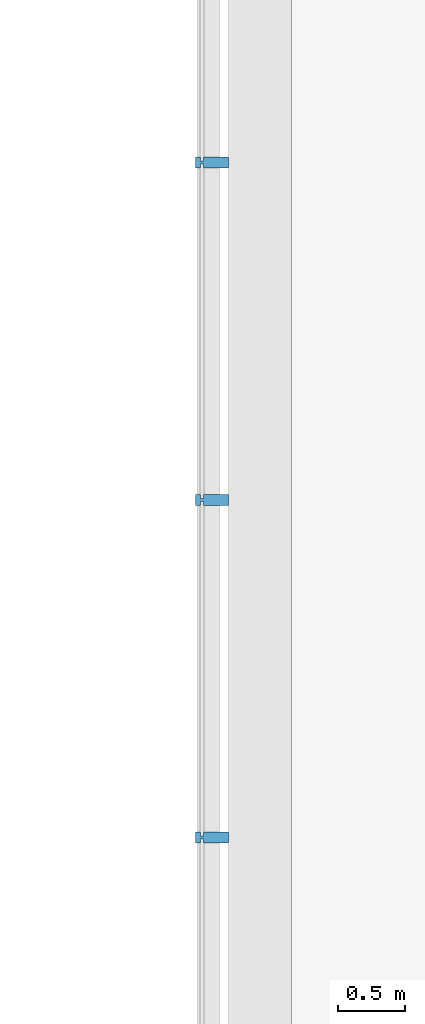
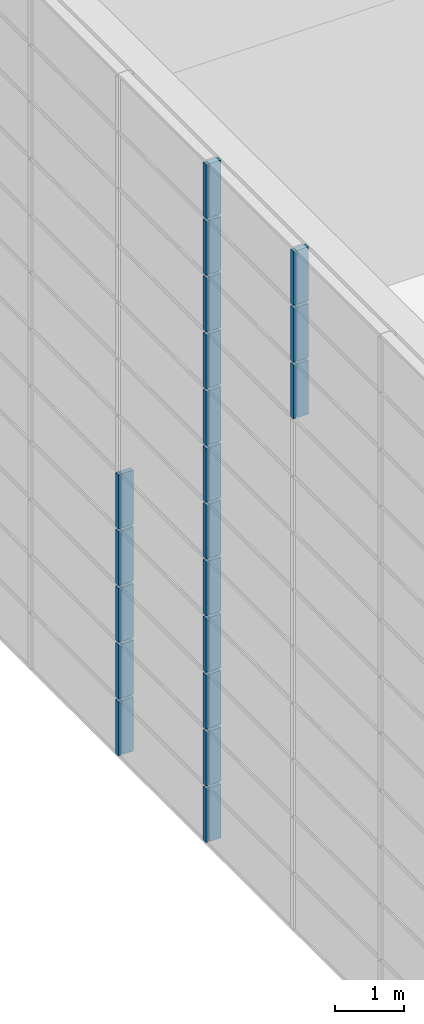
# One storey, part 83 of 105: 20 building element parts, 4 elements without a shape of their own.
"""IFC4 building model written with IfcOpenShell, lengths in millimetres."""

from ifc_helpers import new_model, entity, si_unit, converted_unit, derived_unit, direction, frame, origin_with_axes, place, context, subcontext, project, spatial, triangles, material, element, aggregate, save


model = new_model("IFC4")

# Units and contexts
model_context = context("Model", 3, precision=1e-05, world=origin_with_axes(), true_north=direction((0.0, 1.0)))
body_context = subcontext(model_context, "Body", "Model", "MODEL_VIEW")
ifc_project = project(units=[si_unit("LENGTHUNIT", "METRE", prefix="MILLI"), si_unit("AREAUNIT", "SQUARE_METRE"), si_unit("VOLUMEUNIT", "CUBIC_METRE"), converted_unit("PLANEANGLEUNIT", "DEGREE", entity("IfcLengthMeasure", 0.017453), si_unit("PLANEANGLEUNIT", "RADIAN"), dimensions=[0, 0, 0, 0, 0, 0, 0]), si_unit("SOLIDANGLEUNIT", "STERADIAN"), si_unit("MASSUNIT", "GRAM"), si_unit("TIMEUNIT", "SECOND"), si_unit("THERMODYNAMICTEMPERATUREUNIT", "DEGREE_CELSIUS"), si_unit("LUMINOUSINTENSITYUNIT", "LUMEN"), si_unit("POWERUNIT", "WATT"), derived_unit("THERMALTRANSMITTANCEUNIT", [(si_unit("POWERUNIT", "WATT"), 1), (si_unit("THERMODYNAMICTEMPERATUREUNIT", "KELVIN"), -1), (si_unit("AREAUNIT", "SQUARE_METRE"), -1)])], contexts=[model_context])

# Site, building, storey
site_placement = place(None, origin_with_axes())
site = spatial("IfcSite", under=ifc_project, at=site_placement, Name="Default Site", CompositionType="ELEMENT")
building_placement = place(site_placement, origin_with_axes())
building = spatial("IfcBuilding", under=site, at=building_placement, Name="Default Building", CompositionType="ELEMENT")
storey_placement = place(building_placement, origin_with_axes())
storey = spatial("IfcBuildingStorey", under=building, at=storey_placement, Name="OG - Story", CompositionType="ELEMENT", Elevation=0.0)

# Curtain wall, building element parts
curtain_wall_1_placement = place(storey_placement, origin_with_axes())
curtain_wall_1 = element("IfcCurtainWall", 1, at=curtain_wall_1_placement, inside=storey, Name="Fassade-003", PredefinedType="NOTDEFINED")
ifc_material = material(Name="Blech")
building_element_part_1_placement = place(curtain_wall_1_placement, frame((31551.391327, -51326.104944, 0.0), z_axis=(0.0, 0.0, 1.0), x_axis=(1.0, 0.0, 0.0)))
building_element_part_1 = element("IfcBuildingElementPart", 2, at=building_element_part_1_placement, material=ifc_material, Name="Blech", PredefinedType="NOTDEFINED", context=body_context, shape_type="Tessellation", body=[
    triangles([(200.0, 39117.895, 975.0), (10.0, 39117.895, 975.0), (200.0, 39197.895, 975.0), (10.0, 39147.895, 975.0), (10.0, 39167.895, 975.0), (-9.999, 39147.895, 975.0), (-9.999, 39167.895, 975.0), (-9.999, 39197.895, 975.0), (-9.999, 39117.895, 975.0), (-49.999, 39117.895, 975.0), (-49.999, 39197.895, 975.0), (10.0, 39197.895, 975.0), (10.0, 39167.895, 25.0), (-9.999, 39167.895, 25.0), (-9.999, 39197.895, 25.0), (-49.999, 39197.895, 25.0), (-49.999, 39117.895, 25.0), (-9.999, 39117.895, 25.0), (-9.999, 39147.895, 25.0), (10.0, 39147.895, 25.0), (10.0, 39117.895, 25.0), (200.0, 39117.895, 25.0), (200.0, 39197.895, 25.0), (10.0, 39197.895, 25.0)], [[1, 2, 3], [3, 2, 4], [3, 4, 5], [5, 4, 6], [5, 6, 7], [8, 9, 10], [8, 10, 11], [3, 5, 12], [5, 13, 14], [5, 14, 7], [7, 14, 15], [7, 15, 8], [15, 16, 11], [15, 11, 8], [10, 11, 16], [10, 16, 17], [18, 9, 10], [18, 10, 17], [9, 18, 19], [9, 19, 6], [4, 6, 19], [4, 19, 20], [2, 4, 20], [2, 20, 21], [2, 21, 22], [2, 22, 1], [3, 1, 22], [3, 22, 23], [12, 3, 23], [12, 23, 24], [12, 24, 13], [12, 13, 5], [23, 24, 22], [22, 24, 13], [22, 13, 20], [20, 13, 14], [20, 14, 19], [18, 15, 16], [18, 16, 17], [22, 20, 21]], closed=False),
])
building_element_part_2_placement = place(curtain_wall_1_placement, frame((31551.391327, -51326.104944, 0.0), z_axis=(0.0, 0.0, 1.0), x_axis=(1.0, 0.0, 0.0)))
building_element_part_2 = element("IfcBuildingElementPart", 3, at=building_element_part_2_placement, material=ifc_material, Name="Blech", PredefinedType="NOTDEFINED", context=body_context, shape_type="Tessellation", body=[
    triangles([(200.0, 41644.211, 975.0), (10.0, 41644.211, 975.0), (200.0, 41724.211, 975.0), (10.0, 41674.211, 975.0), (10.0, 41694.211, 975.0), (-9.999, 41674.211, 975.0), (-9.999, 41694.211, 975.0), (-9.999, 41724.211, 975.0), (-9.999, 41644.211, 975.0), (-49.999, 41644.211, 975.0), (-49.999, 41724.211, 975.0), (10.0, 41724.211, 975.0), (10.0, 41694.211, 25.0), (-9.999, 41694.211, 25.0), (-9.999, 41724.211, 25.0), (-49.999, 41724.211, 25.0), (-49.999, 41644.211, 25.0), (-9.999, 41644.211, 25.0), (-9.999, 41674.211, 25.0), (10.0, 41674.211, 25.0), (10.0, 41644.211, 25.0), (200.0, 41644.211, 25.0), (200.0, 41724.211, 25.0), (10.0, 41724.211, 25.0)], [[1, 2, 3], [3, 2, 4], [3, 4, 5], [5, 4, 6], [5, 6, 7], [8, 9, 10], [8, 10, 11], [3, 5, 12], [5, 13, 14], [5, 14, 7], [7, 14, 15], [7, 15, 8], [15, 16, 11], [15, 11, 8], [10, 11, 16], [10, 16, 17], [18, 9, 10], [18, 10, 17], [9, 18, 19], [9, 19, 6], [4, 6, 19], [4, 19, 20], [2, 4, 20], [2, 20, 21], [2, 21, 22], [2, 22, 1], [3, 1, 22], [3, 22, 23], [12, 3, 23], [12, 23, 24], [12, 24, 13], [12, 13, 5], [23, 24, 22], [22, 24, 13], [22, 13, 20], [20, 13, 14], [20, 14, 19], [18, 15, 16], [18, 16, 17], [22, 20, 21]], closed=False),
])
building_element_part_3_placement = place(curtain_wall_1_placement, frame((31551.391327, -51326.104944, 0.0), z_axis=(0.0, 0.0, 1.0), x_axis=(1.0, 0.0, 0.0)))
building_element_part_3 = element("IfcBuildingElementPart", 4, at=building_element_part_3_placement, material=ifc_material, Name="Blech", PredefinedType="NOTDEFINED", context=body_context, shape_type="Tessellation", body=[
    triangles([(200.0, 39117.895, 1975.0), (10.0, 39117.895, 1975.0), (200.0, 39197.895, 1975.0), (10.0, 39147.895, 1975.0), (10.0, 39167.895, 1975.0), (-9.999, 39147.895, 1975.0), (-9.999, 39167.895, 1975.0), (-9.999, 39197.895, 1975.0), (-9.999, 39117.895, 1975.0), (-49.999, 39117.895, 1975.0), (-49.999, 39197.895, 1975.0), (10.0, 39197.895, 1975.0), (10.0, 39167.895, 1025.0), (-9.999, 39167.895, 1025.0), (-9.999, 39197.895, 1025.0), (-49.999, 39197.895, 1025.0), (-49.999, 39117.895, 1025.0), (-9.999, 39117.895, 1025.0), (-9.999, 39147.895, 1025.0), (10.0, 39147.895, 1025.0), (10.0, 39117.895, 1025.0), (200.0, 39117.895, 1025.0), (200.0, 39197.895, 1025.0), (10.0, 39197.895, 1025.0)], [[1, 2, 3], [3, 2, 4], [3, 4, 5], [5, 4, 6], [5, 6, 7], [8, 9, 10], [8, 10, 11], [3, 5, 12], [5, 13, 14], [5, 14, 7], [7, 14, 15], [7, 15, 8], [15, 16, 11], [15, 11, 8], [10, 11, 16], [10, 16, 17], [18, 9, 10], [18, 10, 17], [9, 18, 19], [9, 19, 6], [4, 6, 19], [4, 19, 20], [2, 4, 20], [2, 20, 21], [2, 21, 22], [2, 22, 1], [3, 1, 22], [3, 22, 23], [12, 3, 23], [12, 23, 24], [12, 24, 13], [12, 13, 5], [23, 24, 22], [22, 24, 13], [22, 13, 20], [20, 13, 14], [20, 14, 19], [18, 15, 16], [18, 16, 17], [22, 20, 21]], closed=False),
])
building_element_part_4_placement = place(curtain_wall_1_placement, frame((31551.391327, -51326.104944, 0.0), z_axis=(0.0, 0.0, 1.0), x_axis=(1.0, 0.0, 0.0)))
building_element_part_4 = element("IfcBuildingElementPart", 5, at=building_element_part_4_placement, material=ifc_material, Name="Blech", PredefinedType="NOTDEFINED", context=body_context, shape_type="Tessellation", body=[
    triangles([(200.0, 41644.211, 1975.0), (10.0, 41644.211, 1975.0), (200.0, 41724.211, 1975.0), (10.0, 41674.211, 1975.0), (10.0, 41694.211, 1975.0), (-9.999, 41674.211, 1975.0), (-9.999, 41694.211, 1975.0), (-9.999, 41724.211, 1975.0), (-9.999, 41644.211, 1975.0), (-49.999, 41644.211, 1975.0), (-49.999, 41724.211, 1975.0), (10.0, 41724.211, 1975.0), (10.0, 41694.211, 1025.0), (-9.999, 41694.211, 1025.0), (-9.999, 41724.211, 1025.0), (-49.999, 41724.211, 1025.0), (-49.999, 41644.211, 1025.0), (-9.999, 41644.211, 1025.0), (-9.999, 41674.211, 1025.0), (10.0, 41674.211, 1025.0), (10.0, 41644.211, 1025.0), (200.0, 41644.211, 1025.0), (200.0, 41724.211, 1025.0), (10.0, 41724.211, 1025.0)], [[1, 2, 3], [3, 2, 4], [3, 4, 5], [5, 4, 6], [5, 6, 7], [8, 9, 10], [8, 10, 11], [3, 5, 12], [5, 13, 14], [5, 14, 7], [7, 14, 15], [7, 15, 8], [15, 16, 11], [15, 11, 8], [10, 11, 16], [10, 16, 17], [18, 9, 10], [18, 10, 17], [9, 18, 19], [9, 19, 6], [4, 6, 19], [4, 19, 20], [2, 4, 20], [2, 20, 21], [2, 21, 22], [2, 22, 1], [3, 1, 22], [3, 22, 23], [12, 3, 23], [12, 23, 24], [12, 24, 13], [12, 13, 5], [23, 24, 22], [22, 24, 13], [22, 13, 20], [20, 13, 14], [20, 14, 19], [18, 15, 16], [18, 16, 17], [22, 20, 21]], closed=False),
])
building_element_part_5_placement = place(curtain_wall_1_placement, frame((31551.391327, -51326.104944, 0.0), z_axis=(0.0, 0.0, 1.0), x_axis=(1.0, 0.0, 0.0)))
building_element_part_5 = element("IfcBuildingElementPart", 6, at=building_element_part_5_placement, material=ifc_material, Name="Blech", PredefinedType="NOTDEFINED", context=body_context, shape_type="Tessellation", body=[
    triangles([(200.0, 39117.895, 2975.0), (10.0, 39117.895, 2975.0), (200.0, 39197.895, 2975.0), (10.0, 39147.895, 2975.0), (10.0, 39167.895, 2975.0), (-9.999, 39147.895, 2975.0), (-9.999, 39167.895, 2975.0), (-9.999, 39197.895, 2975.0), (-9.999, 39117.895, 2975.0), (-49.999, 39117.895, 2975.0), (-49.999, 39197.895, 2975.0), (10.0, 39197.895, 2975.0), (10.0, 39167.895, 2025.0), (-9.999, 39167.895, 2025.0), (-9.999, 39197.895, 2025.0), (-49.999, 39197.895, 2025.0), (-49.999, 39117.895, 2025.0), (-9.999, 39117.895, 2025.0), (-9.999, 39147.895, 2025.0), (10.0, 39147.895, 2025.0), (10.0, 39117.895, 2025.0), (200.0, 39117.895, 2025.0), (200.0, 39197.895, 2025.0), (10.0, 39197.895, 2025.0)], [[1, 2, 3], [3, 2, 4], [3, 4, 5], [5, 4, 6], [5, 6, 7], [8, 9, 10], [8, 10, 11], [3, 5, 12], [5, 13, 14], [5, 14, 7], [7, 14, 15], [7, 15, 8], [15, 16, 11], [15, 11, 8], [10, 11, 16], [10, 16, 17], [18, 9, 10], [18, 10, 17], [9, 18, 19], [9, 19, 6], [4, 6, 19], [4, 19, 20], [2, 4, 20], [2, 20, 21], [2, 21, 22], [2, 22, 1], [3, 1, 22], [3, 22, 23], [12, 3, 23], [12, 23, 24], [12, 24, 13], [12, 13, 5], [23, 24, 22], [22, 24, 13], [22, 13, 20], [20, 13, 14], [20, 14, 19], [18, 15, 16], [18, 16, 17], [22, 20, 21]], closed=False),
])
building_element_part_6_placement = place(curtain_wall_1_placement, frame((31551.391327, -51326.104944, 0.0), z_axis=(0.0, 0.0, 1.0), x_axis=(1.0, 0.0, 0.0)))
building_element_part_6 = element("IfcBuildingElementPart", 7, at=building_element_part_6_placement, material=ifc_material, Name="Blech", PredefinedType="NOTDEFINED", context=body_context, shape_type="Tessellation", body=[
    triangles([(200.0, 41644.211, 2975.0), (10.0, 41644.211, 2975.0), (200.0, 41724.211, 2975.0), (10.0, 41674.211, 2975.0), (10.0, 41694.211, 2975.0), (-9.999, 41674.211, 2975.0), (-9.999, 41694.211, 2975.0), (-9.999, 41724.211, 2975.0), (-9.999, 41644.211, 2975.0), (-49.999, 41644.211, 2975.0), (-49.999, 41724.211, 2975.0), (10.0, 41724.211, 2975.0), (10.0, 41694.211, 2025.0), (-9.999, 41694.211, 2025.0), (-9.999, 41724.211, 2025.0), (-49.999, 41724.211, 2025.0), (-49.999, 41644.211, 2025.0), (-9.999, 41644.211, 2025.0), (-9.999, 41674.211, 2025.0), (10.0, 41674.211, 2025.0), (10.0, 41644.211, 2025.0), (200.0, 41644.211, 2025.0), (200.0, 41724.211, 2025.0), (10.0, 41724.211, 2025.0)], [[1, 2, 3], [3, 2, 4], [3, 4, 5], [5, 4, 6], [5, 6, 7], [8, 9, 10], [8, 10, 11], [3, 5, 12], [5, 13, 14], [5, 14, 7], [7, 14, 15], [7, 15, 8], [15, 16, 11], [15, 11, 8], [10, 11, 16], [10, 16, 17], [18, 9, 10], [18, 10, 17], [9, 18, 19], [9, 19, 6], [4, 6, 19], [4, 19, 20], [2, 4, 20], [2, 20, 21], [2, 21, 22], [2, 22, 1], [3, 1, 22], [3, 22, 23], [12, 3, 23], [12, 23, 24], [12, 24, 13], [12, 13, 5], [23, 24, 22], [22, 24, 13], [22, 13, 20], [20, 13, 14], [20, 14, 19], [18, 15, 16], [18, 16, 17], [22, 20, 21]], closed=False),
])
aggregate(curtain_wall_1, [building_element_part_1, building_element_part_2, building_element_part_3, building_element_part_4, building_element_part_5, building_element_part_6])

curtain_wall_2_placement = place(storey_placement, origin_with_axes())
curtain_wall_2 = element("IfcCurtainWall", 8, at=curtain_wall_2_placement, inside=storey, Name="Fassade-003", PredefinedType="NOTDEFINED")
building_element_part_7_placement = place(curtain_wall_2_placement, frame((31551.391327, -51326.104944, 3000.0), z_axis=(0.0, 0.0, 1.0), x_axis=(1.0, 0.0, 0.0)))
building_element_part_7 = element("IfcBuildingElementPart", 9, at=building_element_part_7_placement, material=ifc_material, Name="Blech", PredefinedType="NOTDEFINED", context=body_context, shape_type="Tessellation", body=[
    triangles([(200.0, 39117.895, 975.0), (10.0, 39117.895, 975.0), (200.0, 39197.895, 975.0), (10.0, 39147.895, 975.0), (10.0, 39167.895, 975.0), (-9.999, 39147.895, 975.0), (-9.999, 39167.895, 975.0), (-9.999, 39197.895, 975.0), (-9.999, 39117.895, 975.0), (-49.999, 39117.895, 975.0), (-49.999, 39197.895, 975.0), (10.0, 39197.895, 975.0), (10.0, 39167.895, 25.0), (-9.999, 39167.895, 25.0), (-9.999, 39197.895, 25.0), (-49.999, 39197.895, 25.0), (-49.999, 39117.895, 25.0), (-9.999, 39117.895, 25.0), (-9.999, 39147.895, 25.0), (10.0, 39147.895, 25.0), (10.0, 39117.895, 25.0), (200.0, 39117.895, 25.0), (200.0, 39197.895, 25.0), (10.0, 39197.895, 25.0)], [[1, 2, 3], [3, 2, 4], [3, 4, 5], [5, 4, 6], [5, 6, 7], [8, 9, 10], [8, 10, 11], [3, 5, 12], [5, 13, 14], [5, 14, 7], [7, 14, 15], [7, 15, 8], [15, 16, 11], [15, 11, 8], [10, 11, 16], [10, 16, 17], [18, 9, 10], [18, 10, 17], [9, 18, 19], [9, 19, 6], [4, 6, 19], [4, 19, 20], [2, 4, 20], [2, 20, 21], [2, 21, 22], [2, 22, 1], [3, 1, 22], [3, 22, 23], [12, 3, 23], [12, 23, 24], [12, 24, 13], [12, 13, 5], [23, 24, 22], [22, 24, 13], [22, 13, 20], [20, 13, 14], [20, 14, 19], [18, 15, 16], [18, 16, 17], [22, 20, 21]], closed=False),
])
building_element_part_8_placement = place(curtain_wall_2_placement, frame((31551.391327, -51326.104944, 3000.0), z_axis=(0.0, 0.0, 1.0), x_axis=(1.0, 0.0, 0.0)))
building_element_part_8 = element("IfcBuildingElementPart", 10, at=building_element_part_8_placement, material=ifc_material, Name="Blech", PredefinedType="NOTDEFINED", context=body_context, shape_type="Tessellation", body=[
    triangles([(200.0, 41644.211, 975.0), (10.0, 41644.211, 975.0), (200.0, 41724.211, 975.0), (10.0, 41674.211, 975.0), (10.0, 41694.211, 975.0), (-9.999, 41674.211, 975.0), (-9.999, 41694.211, 975.0), (-9.999, 41724.211, 975.0), (-9.999, 41644.211, 975.0), (-49.999, 41644.211, 975.0), (-49.999, 41724.211, 975.0), (10.0, 41724.211, 975.0), (10.0, 41694.211, 25.0), (-9.999, 41694.211, 25.0), (-9.999, 41724.211, 25.0), (-49.999, 41724.211, 25.0), (-49.999, 41644.211, 25.0), (-9.999, 41644.211, 25.0), (-9.999, 41674.211, 25.0), (10.0, 41674.211, 25.0), (10.0, 41644.211, 25.0), (200.0, 41644.211, 25.0), (200.0, 41724.211, 25.0), (10.0, 41724.211, 25.0)], [[1, 2, 3], [3, 2, 4], [3, 4, 5], [5, 4, 6], [5, 6, 7], [8, 9, 10], [8, 10, 11], [3, 5, 12], [5, 13, 14], [5, 14, 7], [7, 14, 15], [7, 15, 8], [15, 16, 11], [15, 11, 8], [10, 11, 16], [10, 16, 17], [18, 9, 10], [18, 10, 17], [9, 18, 19], [9, 19, 6], [4, 6, 19], [4, 19, 20], [2, 4, 20], [2, 20, 21], [2, 21, 22], [2, 22, 1], [3, 1, 22], [3, 22, 23], [12, 3, 23], [12, 23, 24], [12, 24, 13], [12, 13, 5], [23, 24, 22], [22, 24, 13], [22, 13, 20], [20, 13, 14], [20, 14, 19], [18, 15, 16], [18, 16, 17], [22, 20, 21]], closed=False),
])
building_element_part_9_placement = place(curtain_wall_2_placement, frame((31551.391327, -51326.104944, 3000.0), z_axis=(0.0, 0.0, 1.0), x_axis=(1.0, 0.0, 0.0)))
building_element_part_9 = element("IfcBuildingElementPart", 11, at=building_element_part_9_placement, material=ifc_material, Name="Blech", PredefinedType="NOTDEFINED", context=body_context, shape_type="Tessellation", body=[
    triangles([(200.0, 39117.895, 1975.0), (10.0, 39117.895, 1975.0), (200.0, 39197.895, 1975.0), (10.0, 39147.895, 1975.0), (10.0, 39167.895, 1975.0), (-9.999, 39147.895, 1975.0), (-9.999, 39167.895, 1975.0), (-9.999, 39197.895, 1975.0), (-9.999, 39117.895, 1975.0), (-49.999, 39117.895, 1975.0), (-49.999, 39197.895, 1975.0), (10.0, 39197.895, 1975.0), (10.0, 39167.895, 1025.0), (-9.999, 39167.895, 1025.0), (-9.999, 39197.895, 1025.0), (-49.999, 39197.895, 1025.0), (-49.999, 39117.895, 1025.0), (-9.999, 39117.895, 1025.0), (-9.999, 39147.895, 1025.0), (10.0, 39147.895, 1025.0), (10.0, 39117.895, 1025.0), (200.0, 39117.895, 1025.0), (200.0, 39197.895, 1025.0), (10.0, 39197.895, 1025.0)], [[1, 2, 3], [3, 2, 4], [3, 4, 5], [5, 4, 6], [5, 6, 7], [8, 9, 10], [8, 10, 11], [3, 5, 12], [5, 13, 14], [5, 14, 7], [7, 14, 15], [7, 15, 8], [15, 16, 11], [15, 11, 8], [10, 11, 16], [10, 16, 17], [18, 9, 10], [18, 10, 17], [9, 18, 19], [9, 19, 6], [4, 6, 19], [4, 19, 20], [2, 4, 20], [2, 20, 21], [2, 21, 22], [2, 22, 1], [3, 1, 22], [3, 22, 23], [12, 3, 23], [12, 23, 24], [12, 24, 13], [12, 13, 5], [23, 24, 22], [22, 24, 13], [22, 13, 20], [20, 13, 14], [20, 14, 19], [18, 15, 16], [18, 16, 17], [22, 20, 21]], closed=False),
])
building_element_part_10_placement = place(curtain_wall_2_placement, frame((31551.391327, -51326.104944, 3000.0), z_axis=(0.0, 0.0, 1.0), x_axis=(1.0, 0.0, 0.0)))
building_element_part_10 = element("IfcBuildingElementPart", 12, at=building_element_part_10_placement, material=ifc_material, Name="Blech", PredefinedType="NOTDEFINED", context=body_context, shape_type="Tessellation", body=[
    triangles([(200.0, 41644.211, 1975.0), (10.0, 41644.211, 1975.0), (200.0, 41724.211, 1975.0), (10.0, 41674.211, 1975.0), (10.0, 41694.211, 1975.0), (-9.999, 41674.211, 1975.0), (-9.999, 41694.211, 1975.0), (-9.999, 41724.211, 1975.0), (-9.999, 41644.211, 1975.0), (-49.999, 41644.211, 1975.0), (-49.999, 41724.211, 1975.0), (10.0, 41724.211, 1975.0), (10.0, 41694.211, 1025.0), (-9.999, 41694.211, 1025.0), (-9.999, 41724.211, 1025.0), (-49.999, 41724.211, 1025.0), (-49.999, 41644.211, 1025.0), (-9.999, 41644.211, 1025.0), (-9.999, 41674.211, 1025.0), (10.0, 41674.211, 1025.0), (10.0, 41644.211, 1025.0), (200.0, 41644.211, 1025.0), (200.0, 41724.211, 1025.0), (10.0, 41724.211, 1025.0)], [[1, 2, 3], [3, 2, 4], [3, 4, 5], [5, 4, 6], [5, 6, 7], [8, 9, 10], [8, 10, 11], [3, 5, 12], [5, 13, 14], [5, 14, 7], [7, 14, 15], [7, 15, 8], [15, 16, 11], [15, 11, 8], [10, 11, 16], [10, 16, 17], [18, 9, 10], [18, 10, 17], [9, 18, 19], [9, 19, 6], [4, 6, 19], [4, 19, 20], [2, 4, 20], [2, 20, 21], [2, 21, 22], [2, 22, 1], [3, 1, 22], [3, 22, 23], [12, 3, 23], [12, 23, 24], [12, 24, 13], [12, 13, 5], [23, 24, 22], [22, 24, 13], [22, 13, 20], [20, 13, 14], [20, 14, 19], [18, 15, 16], [18, 16, 17], [22, 20, 21]], closed=False),
])
building_element_part_11_placement = place(curtain_wall_2_placement, frame((31551.391327, -51326.104944, 3000.0), z_axis=(0.0, 0.0, 1.0), x_axis=(1.0, 0.0, 0.0)))
building_element_part_11 = element("IfcBuildingElementPart", 13, at=building_element_part_11_placement, material=ifc_material, Name="Blech", PredefinedType="NOTDEFINED", context=body_context, shape_type="Tessellation", body=[
    triangles([(200.0, 39117.895, 2975.0), (10.0, 39117.895, 2975.0), (200.0, 39197.895, 2975.0), (10.0, 39147.895, 2975.0), (10.0, 39167.895, 2975.0), (-9.999, 39147.895, 2975.0), (-9.999, 39167.895, 2975.0), (-9.999, 39197.895, 2975.0), (-9.999, 39117.895, 2975.0), (-49.999, 39117.895, 2975.0), (-49.999, 39197.895, 2975.0), (10.0, 39197.895, 2975.0), (10.0, 39167.895, 2025.0), (-9.999, 39167.895, 2025.0), (-9.999, 39197.895, 2025.0), (-49.999, 39197.895, 2025.0), (-49.999, 39117.895, 2025.0), (-9.999, 39117.895, 2025.0), (-9.999, 39147.895, 2025.0), (10.0, 39147.895, 2025.0), (10.0, 39117.895, 2025.0), (200.0, 39117.895, 2025.0), (200.0, 39197.895, 2025.0), (10.0, 39197.895, 2025.0)], [[1, 2, 3], [3, 2, 4], [3, 4, 5], [5, 4, 6], [5, 6, 7], [8, 9, 10], [8, 10, 11], [3, 5, 12], [5, 13, 14], [5, 14, 7], [7, 14, 15], [7, 15, 8], [15, 16, 11], [15, 11, 8], [10, 11, 16], [10, 16, 17], [18, 9, 10], [18, 10, 17], [9, 18, 19], [9, 19, 6], [4, 6, 19], [4, 19, 20], [2, 4, 20], [2, 20, 21], [2, 21, 22], [2, 22, 1], [3, 1, 22], [3, 22, 23], [12, 3, 23], [12, 23, 24], [12, 24, 13], [12, 13, 5], [23, 24, 22], [22, 24, 13], [22, 13, 20], [20, 13, 14], [20, 14, 19], [18, 15, 16], [18, 16, 17], [22, 20, 21]], closed=False),
])
aggregate(curtain_wall_2, [building_element_part_7, building_element_part_8, building_element_part_9, building_element_part_10, building_element_part_11])

curtain_wall_3_placement = place(storey_placement, origin_with_axes())
curtain_wall_3 = element("IfcCurtainWall", 14, at=curtain_wall_3_placement, inside=storey, Name="Fassade-003", PredefinedType="NOTDEFINED")
building_element_part_12_placement = place(curtain_wall_3_placement, frame((31551.391327, -51326.104944, 6000.0), z_axis=(0.0, 0.0, 1.0), x_axis=(1.0, 0.0, 0.0)))
building_element_part_12 = element("IfcBuildingElementPart", 15, at=building_element_part_12_placement, material=ifc_material, Name="Blech", PredefinedType="NOTDEFINED", context=body_context, shape_type="Tessellation", body=[
    triangles([(200.0, 39117.895, 975.0), (10.0, 39117.895, 975.0), (200.0, 39197.895, 975.0), (10.0, 39147.895, 975.0), (10.0, 39167.895, 975.0), (-9.999, 39147.895, 975.0), (-9.999, 39167.895, 975.0), (-9.999, 39197.895, 975.0), (-9.999, 39117.895, 975.0), (-49.999, 39117.895, 975.0), (-49.999, 39197.895, 975.0), (10.0, 39197.895, 975.0), (10.0, 39167.895, 25.0), (-9.999, 39167.895, 25.0), (-9.999, 39197.895, 25.0), (-49.999, 39197.895, 25.0), (-49.999, 39117.895, 25.0), (-9.999, 39117.895, 25.0), (-9.999, 39147.895, 25.0), (10.0, 39147.895, 25.0), (10.0, 39117.895, 25.0), (200.0, 39117.895, 25.0), (200.0, 39197.895, 25.0), (10.0, 39197.895, 25.0)], [[1, 2, 3], [3, 2, 4], [3, 4, 5], [5, 4, 6], [5, 6, 7], [8, 9, 10], [8, 10, 11], [3, 5, 12], [5, 13, 14], [5, 14, 7], [7, 14, 15], [7, 15, 8], [15, 16, 11], [15, 11, 8], [10, 11, 16], [10, 16, 17], [18, 9, 10], [18, 10, 17], [9, 18, 19], [9, 19, 6], [4, 6, 19], [4, 19, 20], [2, 4, 20], [2, 20, 21], [2, 21, 22], [2, 22, 1], [3, 1, 22], [3, 22, 23], [12, 3, 23], [12, 23, 24], [12, 24, 13], [12, 13, 5], [23, 24, 22], [22, 24, 13], [22, 13, 20], [20, 13, 14], [20, 14, 19], [18, 15, 16], [18, 16, 17], [22, 20, 21]], closed=False),
])
building_element_part_13_placement = place(curtain_wall_3_placement, frame((31551.391327, -51326.104944, 6000.0), z_axis=(0.0, 0.0, 1.0), x_axis=(1.0, 0.0, 0.0)))
building_element_part_13 = element("IfcBuildingElementPart", 16, at=building_element_part_13_placement, material=ifc_material, Name="Blech", PredefinedType="NOTDEFINED", context=body_context, shape_type="Tessellation", body=[
    triangles([(200.0, 39117.895, 1975.0), (10.0, 39117.895, 1975.0), (200.0, 39197.895, 1975.0), (10.0, 39147.895, 1975.0), (10.0, 39167.895, 1975.0), (-9.999, 39147.895, 1975.0), (-9.999, 39167.895, 1975.0), (-9.999, 39197.895, 1975.0), (-9.999, 39117.895, 1975.0), (-49.999, 39117.895, 1975.0), (-49.999, 39197.895, 1975.0), (10.0, 39197.895, 1975.0), (10.0, 39167.895, 1025.0), (-9.999, 39167.895, 1025.0), (-9.999, 39197.895, 1025.0), (-49.999, 39197.895, 1025.0), (-49.999, 39117.895, 1025.0), (-9.999, 39117.895, 1025.0), (-9.999, 39147.895, 1025.0), (10.0, 39147.895, 1025.0), (10.0, 39117.895, 1025.0), (200.0, 39117.895, 1025.0), (200.0, 39197.895, 1025.0), (10.0, 39197.895, 1025.0)], [[1, 2, 3], [3, 2, 4], [3, 4, 5], [5, 4, 6], [5, 6, 7], [8, 9, 10], [8, 10, 11], [3, 5, 12], [5, 13, 14], [5, 14, 7], [7, 14, 15], [7, 15, 8], [15, 16, 11], [15, 11, 8], [10, 11, 16], [10, 16, 17], [18, 9, 10], [18, 10, 17], [9, 18, 19], [9, 19, 6], [4, 6, 19], [4, 19, 20], [2, 4, 20], [2, 20, 21], [2, 21, 22], [2, 22, 1], [3, 1, 22], [3, 22, 23], [12, 3, 23], [12, 23, 24], [12, 24, 13], [12, 13, 5], [23, 24, 22], [22, 24, 13], [22, 13, 20], [20, 13, 14], [20, 14, 19], [18, 15, 16], [18, 16, 17], [22, 20, 21]], closed=False),
])
building_element_part_14_placement = place(curtain_wall_3_placement, frame((31551.391327, -51326.104944, 6000.0), z_axis=(0.0, 0.0, 1.0), x_axis=(1.0, 0.0, 0.0)))
building_element_part_14 = element("IfcBuildingElementPart", 17, at=building_element_part_14_placement, material=ifc_material, Name="Blech", PredefinedType="NOTDEFINED", context=body_context, shape_type="Tessellation", body=[
    triangles([(200.0, 39117.895, 2975.0), (10.0, 39117.895, 2975.0), (200.0, 39197.895, 2975.0), (10.0, 39147.895, 2975.0), (10.0, 39167.895, 2975.0), (-9.999, 39147.895, 2975.0), (-9.999, 39167.895, 2975.0), (-9.999, 39197.895, 2975.0), (-9.999, 39117.895, 2975.0), (-49.999, 39117.895, 2975.0), (-49.999, 39197.895, 2975.0), (10.0, 39197.895, 2975.0), (10.0, 39167.895, 2025.0), (-9.999, 39167.895, 2025.0), (-9.999, 39197.895, 2025.0), (-49.999, 39197.895, 2025.0), (-49.999, 39117.895, 2025.0), (-9.999, 39117.895, 2025.0), (-9.999, 39147.895, 2025.0), (10.0, 39147.895, 2025.0), (10.0, 39117.895, 2025.0), (200.0, 39117.895, 2025.0), (200.0, 39197.895, 2025.0), (10.0, 39197.895, 2025.0)], [[1, 2, 3], [3, 2, 4], [3, 4, 5], [5, 4, 6], [5, 6, 7], [8, 9, 10], [8, 10, 11], [3, 5, 12], [5, 13, 14], [5, 14, 7], [7, 14, 15], [7, 15, 8], [15, 16, 11], [15, 11, 8], [10, 11, 16], [10, 16, 17], [18, 9, 10], [18, 10, 17], [9, 18, 19], [9, 19, 6], [4, 6, 19], [4, 19, 20], [2, 4, 20], [2, 20, 21], [2, 21, 22], [2, 22, 1], [3, 1, 22], [3, 22, 23], [12, 3, 23], [12, 23, 24], [12, 24, 13], [12, 13, 5], [23, 24, 22], [22, 24, 13], [22, 13, 20], [20, 13, 14], [20, 14, 19], [18, 15, 16], [18, 16, 17], [22, 20, 21]], closed=False),
])
aggregate(curtain_wall_3, [building_element_part_12, building_element_part_13, building_element_part_14])

curtain_wall_4_placement = place(storey_placement, origin_with_axes())
curtain_wall_4 = element("IfcCurtainWall", 18, at=curtain_wall_4_placement, inside=storey, Name="Fassade-003", PredefinedType="NOTDEFINED")
building_element_part_15_placement = place(curtain_wall_4_placement, frame((31551.391327, -51326.104944, 9000.0), z_axis=(0.0, 0.0, 1.0), x_axis=(1.0, 0.0, 0.0)))
building_element_part_15 = element("IfcBuildingElementPart", 19, at=building_element_part_15_placement, material=ifc_material, Name="Blech", PredefinedType="NOTDEFINED", context=body_context, shape_type="Tessellation", body=[
    triangles([(200.0, 36591.579, 975.0), (10.0, 36591.579, 975.0), (200.0, 36671.579, 975.0), (10.0, 36621.579, 975.0), (10.0, 36641.579, 975.0), (-9.999, 36621.579, 975.0), (-9.999, 36641.579, 975.0), (-9.999, 36671.579, 975.0), (-9.999, 36591.579, 975.0), (-49.999, 36591.579, 975.0), (-49.999, 36671.579, 975.0), (10.0, 36671.579, 975.0), (10.0, 36641.579, 25.0), (-9.999, 36641.579, 25.0), (-9.999, 36671.579, 25.0), (-49.999, 36671.579, 25.0), (-49.999, 36591.579, 25.0), (-9.999, 36591.579, 25.0), (-9.999, 36621.579, 25.0), (10.0, 36621.579, 25.0), (10.0, 36591.579, 25.0), (200.0, 36591.579, 25.0), (200.0, 36671.579, 25.0), (10.0, 36671.579, 25.0)], [[1, 2, 3], [3, 2, 4], [3, 4, 5], [5, 4, 6], [5, 6, 7], [8, 9, 10], [8, 10, 11], [3, 5, 12], [5, 13, 14], [5, 14, 7], [7, 14, 15], [7, 15, 8], [15, 16, 11], [15, 11, 8], [10, 11, 16], [10, 16, 17], [18, 9, 10], [18, 10, 17], [9, 18, 19], [9, 19, 6], [4, 6, 19], [4, 19, 20], [2, 4, 20], [2, 20, 21], [2, 21, 22], [2, 22, 1], [3, 1, 22], [3, 22, 23], [12, 3, 23], [12, 23, 24], [12, 24, 13], [12, 13, 5], [23, 24, 22], [22, 24, 13], [22, 13, 20], [20, 13, 14], [20, 14, 19], [18, 15, 16], [18, 16, 17], [22, 20, 21]], closed=False),
])
building_element_part_16_placement = place(curtain_wall_4_placement, frame((31551.391327, -51326.104944, 9000.0), z_axis=(0.0, 0.0, 1.0), x_axis=(1.0, 0.0, 0.0)))
building_element_part_16 = element("IfcBuildingElementPart", 20, at=building_element_part_16_placement, material=ifc_material, Name="Blech", PredefinedType="NOTDEFINED", context=body_context, shape_type="Tessellation", body=[
    triangles([(200.0, 39117.895, 975.0), (10.0, 39117.895, 975.0), (200.0, 39197.895, 975.0), (10.0, 39147.895, 975.0), (10.0, 39167.895, 975.0), (-9.999, 39147.895, 975.0), (-9.999, 39167.895, 975.0), (-9.999, 39197.895, 975.0), (-9.999, 39117.895, 975.0), (-49.999, 39117.895, 975.0), (-49.999, 39197.895, 975.0), (10.0, 39197.895, 975.0), (10.0, 39167.895, 25.0), (-9.999, 39167.895, 25.0), (-9.999, 39197.895, 25.0), (-49.999, 39197.895, 25.0), (-49.999, 39117.895, 25.0), (-9.999, 39117.895, 25.0), (-9.999, 39147.895, 25.0), (10.0, 39147.895, 25.0), (10.0, 39117.895, 25.0), (200.0, 39117.895, 25.0), (200.0, 39197.895, 25.0), (10.0, 39197.895, 25.0)], [[1, 2, 3], [3, 2, 4], [3, 4, 5], [5, 4, 6], [5, 6, 7], [8, 9, 10], [8, 10, 11], [3, 5, 12], [5, 13, 14], [5, 14, 7], [7, 14, 15], [7, 15, 8], [15, 16, 11], [15, 11, 8], [10, 11, 16], [10, 16, 17], [18, 9, 10], [18, 10, 17], [9, 18, 19], [9, 19, 6], [4, 6, 19], [4, 19, 20], [2, 4, 20], [2, 20, 21], [2, 21, 22], [2, 22, 1], [3, 1, 22], [3, 22, 23], [12, 3, 23], [12, 23, 24], [12, 24, 13], [12, 13, 5], [23, 24, 22], [22, 24, 13], [22, 13, 20], [20, 13, 14], [20, 14, 19], [18, 15, 16], [18, 16, 17], [22, 20, 21]], closed=False),
])
building_element_part_17_placement = place(curtain_wall_4_placement, frame((31551.391327, -51326.104944, 9000.0), z_axis=(0.0, 0.0, 1.0), x_axis=(1.0, 0.0, 0.0)))
building_element_part_17 = element("IfcBuildingElementPart", 21, at=building_element_part_17_placement, material=ifc_material, Name="Blech", PredefinedType="NOTDEFINED", context=body_context, shape_type="Tessellation", body=[
    triangles([(200.0, 36591.579, 1975.0), (10.0, 36591.579, 1975.0), (200.0, 36671.579, 1975.0), (10.0, 36621.579, 1975.0), (10.0, 36641.579, 1975.0), (-9.999, 36621.579, 1975.0), (-9.999, 36641.579, 1975.0), (-9.999, 36671.579, 1975.0), (-9.999, 36591.579, 1975.0), (-49.999, 36591.579, 1975.0), (-49.999, 36671.579, 1975.0), (10.0, 36671.579, 1975.0), (10.0, 36641.579, 1025.0), (-9.999, 36641.579, 1025.0), (-9.999, 36671.579, 1025.0), (-49.999, 36671.579, 1025.0), (-49.999, 36591.579, 1025.0), (-9.999, 36591.579, 1025.0), (-9.999, 36621.579, 1025.0), (10.0, 36621.579, 1025.0), (10.0, 36591.579, 1025.0), (200.0, 36591.579, 1025.0), (200.0, 36671.579, 1025.0), (10.0, 36671.579, 1025.0)], [[1, 2, 3], [3, 2, 4], [3, 4, 5], [5, 4, 6], [5, 6, 7], [8, 9, 10], [8, 10, 11], [3, 5, 12], [5, 13, 14], [5, 14, 7], [7, 14, 15], [7, 15, 8], [15, 16, 11], [15, 11, 8], [10, 11, 16], [10, 16, 17], [18, 9, 10], [18, 10, 17], [9, 18, 19], [9, 19, 6], [4, 6, 19], [4, 19, 20], [2, 4, 20], [2, 20, 21], [2, 21, 22], [2, 22, 1], [3, 1, 22], [3, 22, 23], [12, 3, 23], [12, 23, 24], [12, 24, 13], [12, 13, 5], [23, 24, 22], [22, 24, 13], [22, 13, 20], [20, 13, 14], [20, 14, 19], [18, 15, 16], [18, 16, 17], [22, 20, 21]], closed=False),
])
building_element_part_18_placement = place(curtain_wall_4_placement, frame((31551.391327, -51326.104944, 9000.0), z_axis=(0.0, 0.0, 1.0), x_axis=(1.0, 0.0, 0.0)))
building_element_part_18 = element("IfcBuildingElementPart", 22, at=building_element_part_18_placement, material=ifc_material, Name="Blech", PredefinedType="NOTDEFINED", context=body_context, shape_type="Tessellation", body=[
    triangles([(200.0, 39117.895, 1975.0), (10.0, 39117.895, 1975.0), (200.0, 39197.895, 1975.0), (10.0, 39147.895, 1975.0), (10.0, 39167.895, 1975.0), (-9.999, 39147.895, 1975.0), (-9.999, 39167.895, 1975.0), (-9.999, 39197.895, 1975.0), (-9.999, 39117.895, 1975.0), (-49.999, 39117.895, 1975.0), (-49.999, 39197.895, 1975.0), (10.0, 39197.895, 1975.0), (10.0, 39167.895, 1025.0), (-9.999, 39167.895, 1025.0), (-9.999, 39197.895, 1025.0), (-49.999, 39197.895, 1025.0), (-49.999, 39117.895, 1025.0), (-9.999, 39117.895, 1025.0), (-9.999, 39147.895, 1025.0), (10.0, 39147.895, 1025.0), (10.0, 39117.895, 1025.0), (200.0, 39117.895, 1025.0), (200.0, 39197.895, 1025.0), (10.0, 39197.895, 1025.0)], [[1, 2, 3], [3, 2, 4], [3, 4, 5], [5, 4, 6], [5, 6, 7], [8, 9, 10], [8, 10, 11], [3, 5, 12], [5, 13, 14], [5, 14, 7], [7, 14, 15], [7, 15, 8], [15, 16, 11], [15, 11, 8], [10, 11, 16], [10, 16, 17], [18, 9, 10], [18, 10, 17], [9, 18, 19], [9, 19, 6], [4, 6, 19], [4, 19, 20], [2, 4, 20], [2, 20, 21], [2, 21, 22], [2, 22, 1], [3, 1, 22], [3, 22, 23], [12, 3, 23], [12, 23, 24], [12, 24, 13], [12, 13, 5], [23, 24, 22], [22, 24, 13], [22, 13, 20], [20, 13, 14], [20, 14, 19], [18, 15, 16], [18, 16, 17], [22, 20, 21]], closed=False),
])
building_element_part_19_placement = place(curtain_wall_4_placement, frame((31551.391327, -51326.104944, 9000.0), z_axis=(0.0, 0.0, 1.0), x_axis=(1.0, 0.0, 0.0)))
building_element_part_19 = element("IfcBuildingElementPart", 23, at=building_element_part_19_placement, material=ifc_material, Name="Blech", PredefinedType="NOTDEFINED", context=body_context, shape_type="Tessellation", body=[
    triangles([(200.0, 36591.579, 2975.0), (10.0, 36591.579, 2975.0), (200.0, 36671.579, 2975.0), (10.0, 36621.579, 2975.0), (10.0, 36641.579, 2975.0), (-9.999, 36621.579, 2975.0), (-9.999, 36641.579, 2975.0), (-9.999, 36671.579, 2975.0), (-9.999, 36591.579, 2975.0), (-49.999, 36591.579, 2975.0), (-49.999, 36671.579, 2975.0), (10.0, 36671.579, 2975.0), (10.0, 36641.579, 2025.0), (-9.999, 36641.579, 2025.0), (-9.999, 36671.579, 2025.0), (-49.999, 36671.579, 2025.0), (-49.999, 36591.579, 2025.0), (-9.999, 36591.579, 2025.0), (-9.999, 36621.579, 2025.0), (10.0, 36621.579, 2025.0), (10.0, 36591.579, 2025.0), (200.0, 36591.579, 2025.0), (200.0, 36671.579, 2025.0), (10.0, 36671.579, 2025.0)], [[1, 2, 3], [3, 2, 4], [3, 4, 5], [5, 4, 6], [5, 6, 7], [8, 9, 10], [8, 10, 11], [3, 5, 12], [5, 13, 14], [5, 14, 7], [7, 14, 15], [7, 15, 8], [15, 16, 11], [15, 11, 8], [10, 11, 16], [10, 16, 17], [18, 9, 10], [18, 10, 17], [9, 18, 19], [9, 19, 6], [4, 6, 19], [4, 19, 20], [2, 4, 20], [2, 20, 21], [2, 21, 22], [2, 22, 1], [3, 1, 22], [3, 22, 23], [12, 3, 23], [12, 23, 24], [12, 24, 13], [12, 13, 5], [23, 24, 22], [22, 24, 13], [22, 13, 20], [20, 13, 14], [20, 14, 19], [18, 15, 16], [18, 16, 17], [22, 20, 21]], closed=False),
])
building_element_part_20_placement = place(curtain_wall_4_placement, frame((31551.391327, -51326.104944, 9000.0), z_axis=(0.0, 0.0, 1.0), x_axis=(1.0, 0.0, 0.0)))
building_element_part_20 = element("IfcBuildingElementPart", 24, at=building_element_part_20_placement, material=ifc_material, Name="Blech", PredefinedType="NOTDEFINED", context=body_context, shape_type="Tessellation", body=[
    triangles([(200.0, 39117.895, 2975.0), (10.0, 39117.895, 2975.0), (200.0, 39197.895, 2975.0), (10.0, 39147.895, 2975.0), (10.0, 39167.895, 2975.0), (-9.999, 39147.895, 2975.0), (-9.999, 39167.895, 2975.0), (-9.999, 39197.895, 2975.0), (-9.999, 39117.895, 2975.0), (-49.999, 39117.895, 2975.0), (-49.999, 39197.895, 2975.0), (10.0, 39197.895, 2975.0), (10.0, 39167.895, 2025.0), (-9.999, 39167.895, 2025.0), (-9.999, 39197.895, 2025.0), (-49.999, 39197.895, 2025.0), (-49.999, 39117.895, 2025.0), (-9.999, 39117.895, 2025.0), (-9.999, 39147.895, 2025.0), (10.0, 39147.895, 2025.0), (10.0, 39117.895, 2025.0), (200.0, 39117.895, 2025.0), (200.0, 39197.895, 2025.0), (10.0, 39197.895, 2025.0)], [[1, 2, 3], [3, 2, 4], [3, 4, 5], [5, 4, 6], [5, 6, 7], [8, 9, 10], [8, 10, 11], [3, 5, 12], [5, 13, 14], [5, 14, 7], [7, 14, 15], [7, 15, 8], [15, 16, 11], [15, 11, 8], [10, 11, 16], [10, 16, 17], [18, 9, 10], [18, 10, 17], [9, 18, 19], [9, 19, 6], [4, 6, 19], [4, 19, 20], [2, 4, 20], [2, 20, 21], [2, 21, 22], [2, 22, 1], [3, 1, 22], [3, 22, 23], [12, 3, 23], [12, 23, 24], [12, 24, 13], [12, 13, 5], [23, 24, 22], [22, 24, 13], [22, 13, 20], [20, 13, 14], [20, 14, 19], [18, 15, 16], [18, 16, 17], [22, 20, 21]], closed=False),
])
aggregate(curtain_wall_4, [building_element_part_15, building_element_part_16, building_element_part_17, building_element_part_18, building_element_part_19, building_element_part_20])

save(model, "model.ifc")
